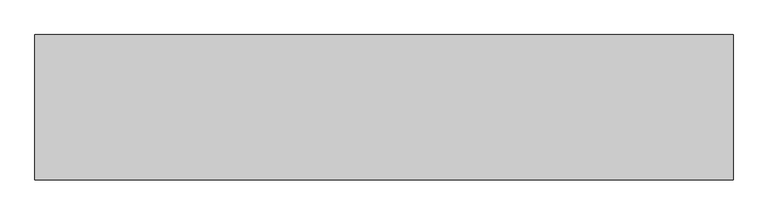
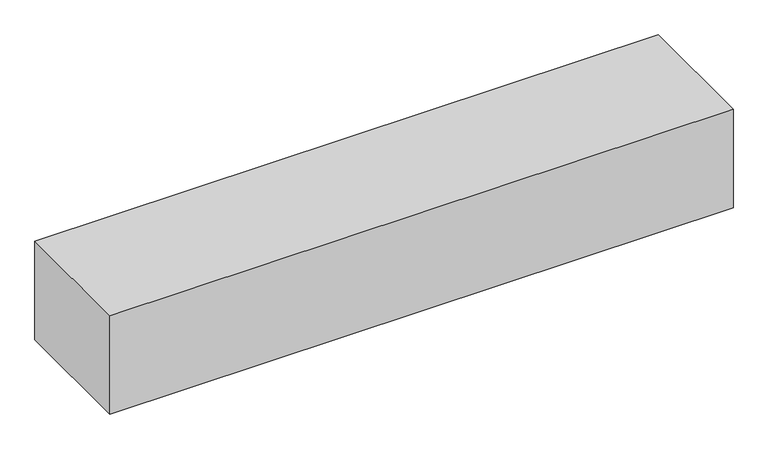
"""IFC4 building model written with IfcOpenShell, lengths in millimetres: geographic element geometry, r 低木密植 : 低木密植."""

import ifcopenshell
import ifcopenshell.guid

model = None  # the IFC model being written
_history = None  # IfcOwnerHistory: only IFC2X3 demands one
_inside = {}  # id of a spatial element -> (the spatial element, [elements in it])
_under = {}  # id of a project, library or spatial element -> (it, [spatial elements below it])
_declared = {}  # id of a project -> (the project, [libraries it declares])
_typed = {}  # id of a type object -> (the type object, [elements of that type])
_made_of = {}  # id of a material, layer set ... -> (it, [elements and type objects made of it])


def new_model(schema):
    """Start an empty IFC model of exactly this schema.

    Asked for "IFC4X3", IfcOpenShell would pick the latest addendum, in which some entities
    have other attributes; the version numbers below select the first issue.
    IFC2X3 requires an IfcOwnerHistory on every rooted entity: one is made here for all.
    """
    global model, _history
    if schema == "IFC4X3":
        model = ifcopenshell.file(schema_version=(4, 3, 0, 0))
    else:
        model = ifcopenshell.file(schema=schema)
    _inside.clear()
    _under.clear()
    _declared.clear()
    _typed.clear()
    _made_of.clear()
    _history = None
    if model.schema == "IFC2X3":
        org = make("IfcOrganization", Name="unknown")
        user = make(
            "IfcPersonAndOrganization",
            ThePerson=make("IfcPerson", FamilyName="unknown"),
            TheOrganization=org,
        )
        app = make(
            "IfcApplication",
            ApplicationDeveloper=org,
            Version="unknown",
            ApplicationFullName="unknown",
            ApplicationIdentifier="unknown",
        )
        _history = make(
            "IfcOwnerHistory",
            OwningUser=user,
            OwningApplication=app,
            ChangeAction="ADDED",
            CreationDate=0,
        )
    return model


def make(cls, **values):
    """One entity of the class cls with the attributes given. An attribute that is None is left unset."""
    return model.create_entity(
        cls, **{name: value for name, value in values.items() if value is not None}
    )


def rooted(cls, **values):
    """An entity with a GlobalId (a new one), such as an element, a storey or a relation."""
    return make(cls, GlobalId=ifcopenshell.guid.new(), OwnerHistory=_history, **values)


def si_unit(unit_type, name, prefix=None):
    """IfcSIUnit, for example si_unit("LENGTHUNIT", "METRE", prefix="MILLI")."""
    return make("IfcSIUnit", UnitType=unit_type, Prefix=prefix, Name=name)


def assignment(units):
    """IfcUnitAssignment: the units of a project."""
    return None if units is None else make("IfcUnitAssignment", Units=units)


def point(xyz):
    """IfcCartesianPoint."""
    return None if xyz is None else make("IfcCartesianPoint", Coordinates=xyz)


def direction(xyz):
    """IfcDirection."""
    return None if xyz is None else make("IfcDirection", DirectionRatios=xyz)


def frame(location, z_axis=None, x_axis=None):
    """IfcAxis2Placement3D, a coordinate frame: its origin and axes. An axis left out is left unset."""
    return make(
        "IfcAxis2Placement3D",
        Location=point(location),
        Axis=direction(z_axis),
        RefDirection=direction(x_axis),
    )


def origin():
    """The frame at (0, 0, 0) with its axes left unset."""
    return frame((0.0, 0.0, 0.0))


def origin_with_axes():
    """The frame at (0, 0, 0) with the z axis (0, 0, 1) and the x axis (1, 0, 0) written out."""
    return frame((0.0, 0.0, 0.0), z_axis=(0.0, 0.0, 1.0), x_axis=(1.0, 0.0, 0.0))


def place(relative_to, where):
    """IfcLocalPlacement: puts the frame where relative to a parent placement (None: the world)."""
    return make(
        "IfcLocalPlacement", PlacementRelTo=relative_to, RelativePlacement=where
    )


def context(
    kind, dimensions, precision=None, world=None, true_north=None, identifier=None
):
    """IfcGeometricRepresentationContext, for example the 3D "Model" context."""
    return make(
        "IfcGeometricRepresentationContext",
        ContextIdentifier=identifier,
        ContextType=kind,
        CoordinateSpaceDimension=dimensions,
        Precision=precision,
        WorldCoordinateSystem=world,
        TrueNorth=true_north,
    )


def project(units=None, contexts=None):
    """IfcProject with its units and contexts."""
    return rooted(
        "IfcProject",
        Name="project",
        RepresentationContexts=contexts,
        UnitsInContext=assignment(units),
    )


def spatial(cls, under=None, at=None, **own):
    """A site, building, storey or space (cls), placed at a placement, below another one or the project."""
    s = rooted(cls, ObjectPlacement=at, **own)
    if under is not None:
        _under.setdefault(under.id(), (under, []))[1].append(s)
    return s


def polyline(points):
    """IfcPolyline through the points."""
    return make("IfcPolyline", Points=[point(p) for p in points])


def outline(outer, holes=None, kind="AREA"):
    """IfcArbitraryClosedProfileDef: a profile drawn as a closed curve; with holes, ...WithVoids."""
    if holes is None:
        return make("IfcArbitraryClosedProfileDef", ProfileType=kind, OuterCurve=outer)
    return make(
        "IfcArbitraryProfileDefWithVoids",
        ProfileType=kind,
        OuterCurve=outer,
        InnerCurves=holes,
    )


def extrude(swept, where, along, depth):
    """IfcExtrudedAreaSolid: the profile swept, set in the frame where, extruded along a direction by depth."""
    return make(
        "IfcExtrudedAreaSolid",
        SweptArea=swept,
        Position=where,
        ExtrudedDirection=direction(along),
        Depth=depth,
    )


def shape(context_of_items, identifier, shape_type, items):
    """IfcShapeRepresentation: the items that make up one representation, for example the "Body"."""
    return make(
        "IfcShapeRepresentation",
        ContextOfItems=context_of_items,
        RepresentationIdentifier=identifier,
        RepresentationType=shape_type,
        Items=items,
    )


def source(mapping_origin, context_of_items, identifier, shape_type, items):
    """IfcRepresentationMap: a shape defined once, which mapped items show again and again."""
    return make(
        "IfcRepresentationMap",
        MappingOrigin=mapping_origin,
        MappedRepresentation=shape(context_of_items, identifier, shape_type, items),
    )


def transform(
    local_origin,
    x_axis=None,
    y_axis=None,
    z_axis=None,
    scale=None,
    scale2=None,
    scale3=None,
    uniform=True,
):
    """IfcCartesianTransformationOperator3D, or its non-uniform kind. x_axis, y_axis, z_axis: its Axis1, 2, 3."""
    if uniform:
        return make(
            "IfcCartesianTransformationOperator3D",
            Axis1=direction(x_axis),
            Axis2=direction(y_axis),
            LocalOrigin=point(local_origin),
            Scale=scale,
            Axis3=direction(z_axis),
        )
    return make(
        "IfcCartesianTransformationOperator3DnonUniform",
        Axis1=direction(x_axis),
        Axis2=direction(y_axis),
        LocalOrigin=point(local_origin),
        Scale=scale,
        Axis3=direction(z_axis),
        Scale2=scale2,
        Scale3=scale3,
    )


def mapped(mapping_source, mapping_target):
    """IfcMappedItem: shows the shape of a source again, moved by a transform."""
    return make(
        "IfcMappedItem", MappingSource=mapping_source, MappingTarget=mapping_target
    )


def made_of(thing, what):
    """Note that an element or type object is made of a material, layer set ...; save() writes the relation."""
    if what is not None:
        _made_of.setdefault(what.id(), (what, []))[1].append(thing)
    return thing


def element(
    cls,
    number,
    at=None,
    inside=None,
    cuts=None,
    type_object=None,
    material=None,
    context=None,
    identifier="Body",
    shape_type=None,
    held_by="IfcProductDefinitionShape",
    body=None,
    shapes=None,
    **own,
):
    """One element of the class cls, such as IfcWall. Its Tag is "e" and its number.

    at: its placement. inside: the storey or other place that contains it. cuts: it is an
    opening in that element (IfcRelVoidsElement). A single representation is given by context,
    identifier, shape_type and body (its items); several are given by shapes. held_by: the class
    of the entity that holds the representations. save() writes the other relations.
    """
    e = rooted(cls, Tag="e%d" % number, ObjectPlacement=at, **own)
    if body is not None:
        shapes = [shape(context, identifier, shape_type, body)]
    if shapes is not None:
        e.Representation = make(held_by, Representations=shapes)
    if inside is not None:
        _inside.setdefault(inside.id(), (inside, []))[1].append(e)
    if cuts is not None:
        rooted(
            "IfcRelVoidsElement", RelatingBuildingElement=cuts, RelatedOpeningElement=e
        )
    if type_object is not None:
        _typed.setdefault(type_object.id(), (type_object, []))[1].append(e)
    return made_of(e, material)


def aggregate(whole, parts):
    """IfcRelAggregates: a whole, such as a stair, and the parts it consists of."""
    return rooted("IfcRelAggregates", RelatingObject=whole, RelatedObjects=parts)


def save(model, path):
    """Write the relations noted so far, then the file.

    IfcRelAggregates (storeys below a building ...), IfcRelContainedInSpatialStructure (elements
    in a storey), IfcRelDefinesByType, IfcRelAssociatesMaterial and IfcRelDeclares: one each for
    every whole, place, type object, material and project.
    """
    for whole, parts in _under.values():
        aggregate(whole, parts)
    for where, things in _inside.values():
        rooted(
            "IfcRelContainedInSpatialStructure",
            RelatedElements=things,
            RelatingStructure=where,
        )
    for kind, things in _typed.values():
        rooted("IfcRelDefinesByType", RelatedObjects=things, RelatingType=kind)
    for what, things in _made_of.values():
        rooted("IfcRelAssociatesMaterial", RelatedObjects=things, RelatingMaterial=what)
    for by, libraries in _declared.values():
        rooted("IfcRelDeclares", RelatingContext=by, RelatedDefinitions=libraries)
    model.write(path)


def geographic_element_ca9d48e7(model_context):
    return source(origin(), model_context, "Body", "SweptSolid", [
        extrude(outline(polyline([(0.0, 0.0), (0.0, 500.0), (2400.0, 500.0), (2400.0, 0.0), (0.0, 0.0)])), origin_with_axes(), (0.0, 0.0, 1.0), 400.0),
    ])


if __name__ == "__main__":
    model = new_model("IFC4")
    model_context = context("Model", 3, world=origin())
    ifc_project = project(units=[si_unit("LENGTHUNIT", "METRE", prefix="MILLI")], contexts=[model_context])
    site = spatial("IfcSite", under=ifc_project)
    building = spatial("IfcBuilding", under=site)
    placement = place(None, origin())
    geographic_element_shape = geographic_element_ca9d48e7(model_context)
    element("IfcGeographicElement", 1, ObjectType="r 低木密植 : 低木密植", at=placement, inside=building, context=model_context, shape_type="MappedRepresentation", body=[
        mapped(geographic_element_shape, transform((0.0, 0.0, 0.0), x_axis=(1.0, 0.0, 0.0), y_axis=(0.0, 1.0, 0.0), z_axis=(0.0, 0.0, 1.0))),
    ])
    save(model, "model.ifc")
